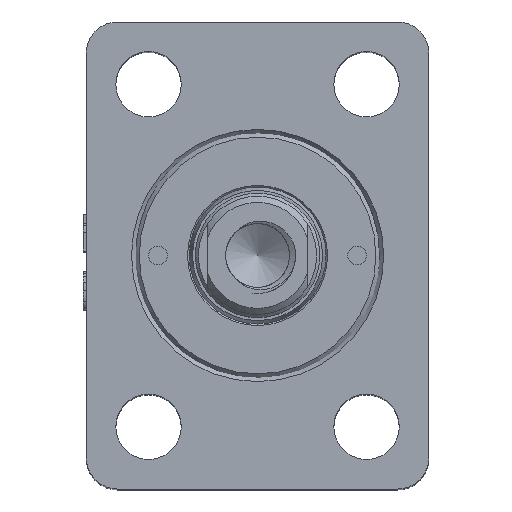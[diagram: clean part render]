
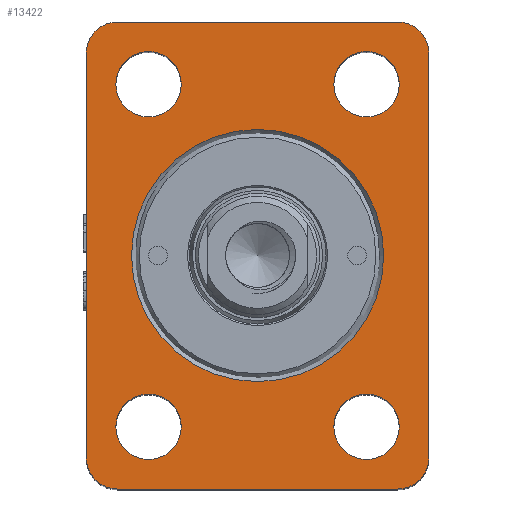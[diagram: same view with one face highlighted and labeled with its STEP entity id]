
A CAD part, top view. The second image highlights one B-rep face of the part: STEP entity #13422.
In plain terms, the highlighted planar face has unit normal (0, 0, 1).
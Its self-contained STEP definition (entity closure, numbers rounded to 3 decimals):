
#1426=FACE_BOUND('',#5072,.T.);
#1427=FACE_BOUND('',#5073,.T.);
#1428=FACE_BOUND('',#5074,.T.);
#1429=FACE_BOUND('',#5075,.T.);
#1430=FACE_BOUND('',#5076,.T.);
#1639=PLANE('',#14062);
#1828=LINE('',#29458,#2730);
#2495=LINE('',#39058,#3397);
#2496=LINE('',#39062,#3398);
#2497=LINE('',#39066,#3399);
#2730=VECTOR('',#15053,10.);
#3397=VECTOR('',#16032,10.);
#3398=VECTOR('',#16035,10.);
#3399=VECTOR('',#16040,10.);
#4265=FACE_OUTER_BOUND('',#5071,.T.);
#5071=EDGE_LOOP('',(#12325,#12326,#12327,#12328,#12329,#12330,#12331,#12332));
#5072=EDGE_LOOP('',(#12333));
#5073=EDGE_LOOP('',(#12334));
#5074=EDGE_LOOP('',(#12335));
#5075=EDGE_LOOP('',(#12336));
#5076=EDGE_LOOP('',(#12337));
#5323=CIRCLE('',#14060,20.25);
#5324=CIRCLE('',#14063,5.);
#5325=CIRCLE('',#14064,5.);
#5326=CIRCLE('',#14065,5.);
#5327=CIRCLE('',#14066,5.);
#5328=CIRCLE('',#14067,5.25);
#5329=CIRCLE('',#14068,5.25);
#5330=CIRCLE('',#14069,5.25);
#5331=CIRCLE('',#14070,5.25);
#5716=VERTEX_POINT('',#29454);
#5718=VERTEX_POINT('',#29457);
#6579=VERTEX_POINT('',#39049);
#6580=VERTEX_POINT('',#39054);
#6581=VERTEX_POINT('',#39055);
#6582=VERTEX_POINT('',#39057);
#6583=VERTEX_POINT('',#39059);
#6584=VERTEX_POINT('',#39061);
#6585=VERTEX_POINT('',#39064);
#6586=VERTEX_POINT('',#39067);
#6587=VERTEX_POINT('',#39069);
#6588=VERTEX_POINT('',#39071);
#6589=VERTEX_POINT('',#39073);
#7224=EDGE_CURVE('',#5718,#5716,#1828,.T.);
#8524=EDGE_CURVE('',#6579,#6579,#5323,.T.);
#8526=EDGE_CURVE('',#6580,#6581,#5324,.T.);
#8527=EDGE_CURVE('',#6580,#6582,#2495,.T.);
#8528=EDGE_CURVE('',#6583,#6582,#5325,.T.);
#8529=EDGE_CURVE('',#6583,#6584,#2496,.T.);
#8530=EDGE_CURVE('',#5718,#6584,#5326,.T.);
#8531=EDGE_CURVE('',#6585,#5716,#5327,.T.);
#8532=EDGE_CURVE('',#6585,#6581,#2497,.T.);
#8533=EDGE_CURVE('',#6586,#6586,#5328,.T.);
#8534=EDGE_CURVE('',#6587,#6587,#5329,.T.);
#8535=EDGE_CURVE('',#6588,#6588,#5330,.T.);
#8536=EDGE_CURVE('',#6589,#6589,#5331,.T.);
#12325=ORIENTED_EDGE('',*,*,#8526,.F.);
#12326=ORIENTED_EDGE('',*,*,#8527,.T.);
#12327=ORIENTED_EDGE('',*,*,#8528,.F.);
#12328=ORIENTED_EDGE('',*,*,#8529,.T.);
#12329=ORIENTED_EDGE('',*,*,#8530,.F.);
#12330=ORIENTED_EDGE('',*,*,#7224,.T.);
#12331=ORIENTED_EDGE('',*,*,#8531,.F.);
#12332=ORIENTED_EDGE('',*,*,#8532,.T.);
#12333=ORIENTED_EDGE('',*,*,#8533,.T.);
#12334=ORIENTED_EDGE('',*,*,#8534,.T.);
#12335=ORIENTED_EDGE('',*,*,#8535,.T.);
#12336=ORIENTED_EDGE('',*,*,#8536,.T.);
#12337=ORIENTED_EDGE('',*,*,#8524,.F.);
#13422=ADVANCED_FACE('',(#4265,#1426,#1427,#1428,#1429,#1430),#1639,.T.);
#14060=AXIS2_PLACEMENT_3D('',#39050,#16023,#16024);
#14062=AXIS2_PLACEMENT_3D('',#39053,#16028,#16029);
#14063=AXIS2_PLACEMENT_3D('',#39056,#16030,#16031);
#14064=AXIS2_PLACEMENT_3D('',#39060,#16033,#16034);
#14065=AXIS2_PLACEMENT_3D('',#39063,#16036,#16037);
#14066=AXIS2_PLACEMENT_3D('',#39065,#16038,#16039);
#14067=AXIS2_PLACEMENT_3D('',#39068,#16041,#16042);
#14068=AXIS2_PLACEMENT_3D('',#39070,#16043,#16044);
#14069=AXIS2_PLACEMENT_3D('',#39072,#16045,#16046);
#14070=AXIS2_PLACEMENT_3D('',#39074,#16047,#16048);
#15053=DIRECTION('',(0.,-1.,0.));
#16023=DIRECTION('center_axis',(0.,0.,1.));
#16024=DIRECTION('ref_axis',(-1.,0.,0.));
#16028=DIRECTION('center_axis',(0.,0.,1.));
#16029=DIRECTION('ref_axis',(1.,0.,0.));
#16030=DIRECTION('center_axis',(0.,0.,-1.));
#16031=DIRECTION('ref_axis',(0.707,-0.707,0.));
#16032=DIRECTION('',(0.,1.,0.));
#16033=DIRECTION('center_axis',(0.,0.,-1.));
#16034=DIRECTION('ref_axis',(0.707,0.707,0.));
#16035=DIRECTION('',(-1.,0.,0.));
#16036=DIRECTION('center_axis',(0.,0.,-1.));
#16037=DIRECTION('ref_axis',(-0.707,0.707,0.));
#16038=DIRECTION('center_axis',(0.,0.,-1.));
#16039=DIRECTION('ref_axis',(-0.707,-0.707,0.));
#16040=DIRECTION('',(1.,0.,0.));
#16041=DIRECTION('center_axis',(0.,0.,-1.));
#16042=DIRECTION('ref_axis',(-1.,0.,0.));
#16043=DIRECTION('center_axis',(0.,0.,-1.));
#16044=DIRECTION('ref_axis',(-1.,0.,0.));
#16045=DIRECTION('center_axis',(0.,0.,-1.));
#16046=DIRECTION('ref_axis',(-1.,0.,0.));
#16047=DIRECTION('center_axis',(0.,0.,-1.));
#16048=DIRECTION('ref_axis',(-1.,0.,0.));
#29454=CARTESIAN_POINT('',(0.,5.,90.));
#29457=CARTESIAN_POINT('',(0.,70.,90.));
#29458=CARTESIAN_POINT('',(0.,75.,90.));
#39049=CARTESIAN_POINT('',(47.75,37.5,90.));
#39050=CARTESIAN_POINT('Origin',(27.5,37.5,90.));
#39053=CARTESIAN_POINT('Origin',(27.5,37.5,90.));
#39054=CARTESIAN_POINT('',(55.,5.,90.));
#39055=CARTESIAN_POINT('',(50.,0.,90.));
#39056=CARTESIAN_POINT('Origin',(50.,5.,90.));
#39057=CARTESIAN_POINT('',(55.,70.,90.));
#39058=CARTESIAN_POINT('',(55.,0.,90.));
#39059=CARTESIAN_POINT('',(50.,75.,90.));
#39060=CARTESIAN_POINT('Origin',(50.,70.,90.));
#39061=CARTESIAN_POINT('',(5.,75.,90.));
#39062=CARTESIAN_POINT('',(55.,75.,90.));
#39063=CARTESIAN_POINT('Origin',(5.,70.,90.));
#39064=CARTESIAN_POINT('',(5.,0.,90.));
#39065=CARTESIAN_POINT('Origin',(5.,5.,90.));
#39066=CARTESIAN_POINT('',(0.,0.,90.));
#39067=CARTESIAN_POINT('',(50.25,10.,90.));
#39068=CARTESIAN_POINT('Origin',(45.,10.,90.));
#39069=CARTESIAN_POINT('',(50.25,65.,90.));
#39070=CARTESIAN_POINT('Origin',(45.,65.,90.));
#39071=CARTESIAN_POINT('',(15.25,10.,90.));
#39072=CARTESIAN_POINT('Origin',(10.,10.,90.));
#39073=CARTESIAN_POINT('',(15.25,65.,90.));
#39074=CARTESIAN_POINT('Origin',(10.,65.,90.));
